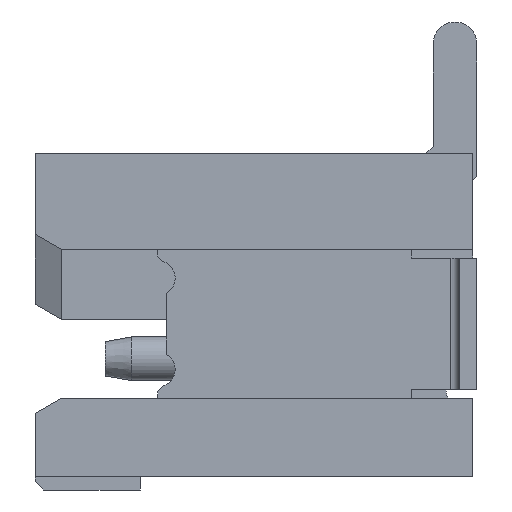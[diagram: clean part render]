
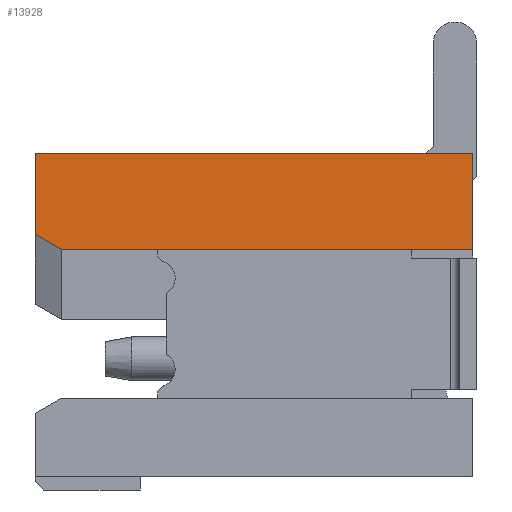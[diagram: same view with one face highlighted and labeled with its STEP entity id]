
A CAD part, left-side view. The second image highlights one B-rep face of the part: STEP entity #13928.
In plain terms, the highlighted planar face has unit normal (-1, 0, 0).
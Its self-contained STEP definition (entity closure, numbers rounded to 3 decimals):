
#2687=DIRECTION('',(0.,0.,1.));
#2688=VECTOR('',#2687,1.1);
#2689=CARTESIAN_POINT('',(-0.75,-5.,-1.1));
#2690=LINE('',#2689,#2688);
#2719=DIRECTION('',(0.,-1.,0.));
#2720=VECTOR('',#2719,4.7);
#2721=CARTESIAN_POINT('',(-0.75,-0.3,-1.1));
#2722=LINE('',#2721,#2720);
#2995=DIRECTION('',(0.,0.866,0.5));
#2996=VECTOR('',#2995,0.346);
#2997=CARTESIAN_POINT('',(-0.75,-0.3,-1.1));
#2998=LINE('',#2997,#2996);
#2999=DIRECTION('',(0.,0.,1.));
#3000=VECTOR('',#2999,0.927);
#3001=CARTESIAN_POINT('',(-0.75,0.,-0.927));
#3002=LINE('',#3001,#3000);
#3003=DIRECTION('',(0.,1.,0.));
#3004=VECTOR('',#3003,5.);
#3005=CARTESIAN_POINT('',(-0.75,-5.,0.));
#3006=LINE('',#3005,#3004);
#8395=CARTESIAN_POINT('',(-0.75,0.,-0.927));
#8396=VERTEX_POINT('',#8395);
#8397=CARTESIAN_POINT('',(-0.75,-0.3,-1.1));
#8398=VERTEX_POINT('',#8397);
#8399=CARTESIAN_POINT('',(-0.75,0.,0.));
#8400=VERTEX_POINT('',#8399);
#8401=CARTESIAN_POINT('',(-0.75,-5.,0.));
#8402=VERTEX_POINT('',#8401);
#8403=CARTESIAN_POINT('',(-0.75,-5.,-1.1));
#8404=VERTEX_POINT('',#8403);
#13915=CARTESIAN_POINT('',(-0.75,-2.5,-0.55));
#13916=DIRECTION('',(1.,0.,0.));
#13917=DIRECTION('',(0.,-1.,0.));
#13918=AXIS2_PLACEMENT_3D('',#13915,#13916,#13917);
#13919=PLANE('',#13918);
#13920=ORIENTED_EDGE('',*,*,#13907,.T.);
#13921=ORIENTED_EDGE('',*,*,#11824,.T.);
#13923=ORIENTED_EDGE('',*,*,#13922,.F.);
#13924=ORIENTED_EDGE('',*,*,#13518,.F.);
#13925=ORIENTED_EDGE('',*,*,#13541,.F.);
#13926=EDGE_LOOP('',(#13920,#13921,#13923,#13924,#13925));
#13927=FACE_OUTER_BOUND('',#13926,.F.);
#11824=EDGE_CURVE('',#8396,#8400,#3002,.T.);
#13518=EDGE_CURVE('',#8404,#8402,#2690,.T.);
#13541=EDGE_CURVE('',#8398,#8404,#2722,.T.);
#13907=EDGE_CURVE('',#8398,#8396,#2998,.T.);
#13922=EDGE_CURVE('',#8402,#8400,#3006,.T.);
#13928=ADVANCED_FACE('',(#13927),#13919,.F.);
